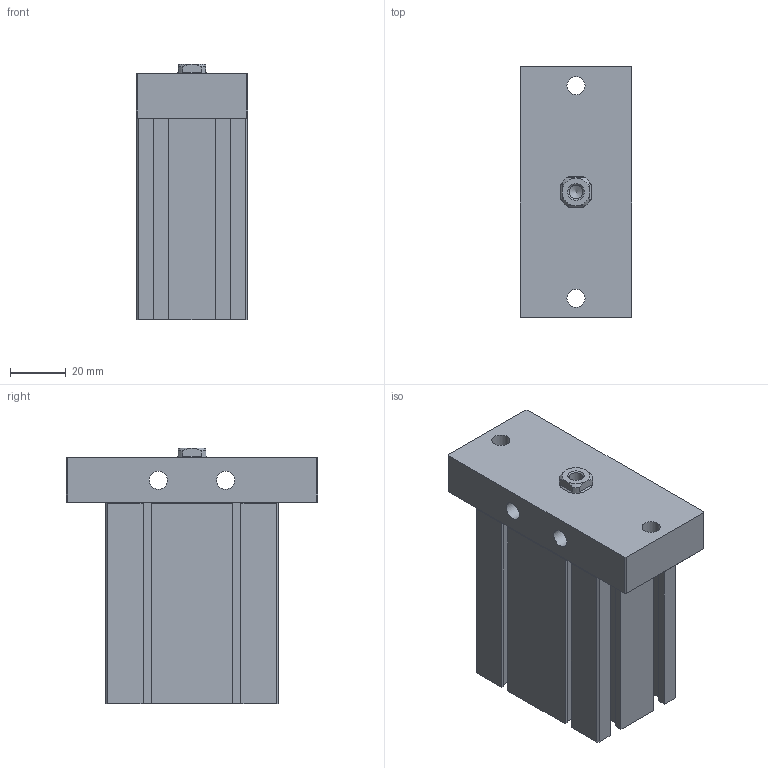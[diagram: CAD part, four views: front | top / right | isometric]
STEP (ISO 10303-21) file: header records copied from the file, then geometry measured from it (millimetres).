
FILE_DESCRIPTION((''),'2;1');
FILE_NAME('J:\3D電子目錄\氣缸\ND\ND\ND32-F\ND32x40-F.stp','2008-03-12T14:56:25',('66-2f-008'),(''),'Autodesk Inventor 11','Autodesk Inventor 11','');
FILE_SCHEMA(('AUTOMOTIVE_DESIGN { 1 0 10303 214 1 1 1 1 }'));
Length unit declared in the file: millimetre
Products named in the file (1): ND32-F
Bounding box: 40 x 90 x 91.5 mm (x, y, z)
Volume: 210873.1 mm3; surface area: 38372.5 mm2
Topology: 2 solids, 2 shells, 145 faces, 371 edges, 239 vertices
Faces by surface type: plane 105, bspline 16, cone 12, cylinder 11, torus 1
Full cylindrical faces by diameter (mm): 2.2 x2, 6.5 x2, 23 x1, 34 x1, 36 x1
Entity records: 4318 total; most frequent: CARTESIAN_POINT 948, ORIENTED_EDGE 674, DIRECTION 650, EDGE_CURVE 337, VECTOR 268, LINE 268, VERTEX_POINT 233, AXIS2_PLACEMENT_3D 191
